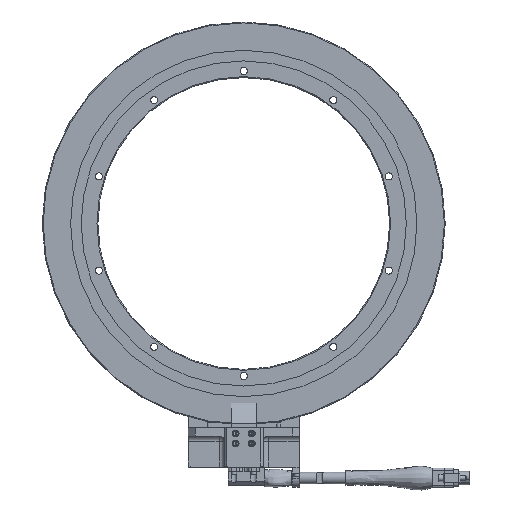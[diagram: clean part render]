
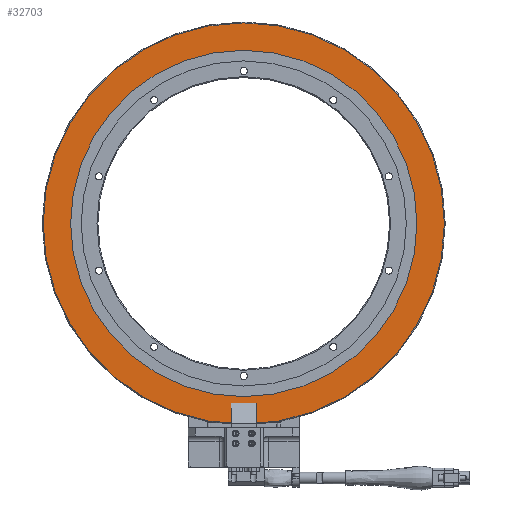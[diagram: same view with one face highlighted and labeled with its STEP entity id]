
A CAD part, front view. The second image highlights one B-rep face of the part: STEP entity #32703.
In plain terms, the highlighted planar face has unit normal (0, -1, 0).
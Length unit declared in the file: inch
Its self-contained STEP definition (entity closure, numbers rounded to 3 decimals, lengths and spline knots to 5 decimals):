
#3690 = VERTEX_POINT ( 'NONE', #35584 ) ;
#3760 = DIRECTION ( 'NONE',  ( 0., 0., 1. ) ) ;
#8404 = CIRCLE ( 'NONE', #79782, 3.61 ) ;
#22465 = AXIS2_PLACEMENT_3D ( 'NONE', #58817, #66284, #100812 ) ;
#25892 = EDGE_CURVE ( 'NONE', #3690, #3690, #8404, .T. ) ;
#32703 = ADVANCED_FACE ( 'NONE', ( #58296, #82758 ), #35899, .F. ) ;
#35584 = CARTESIAN_POINT ( 'NONE',  ( 3.61, 0., 0. ) ) ;
#35606 = EDGE_LOOP ( 'NONE', ( #40067 ) ) ;
#35657 = DIRECTION ( 'NONE',  ( 0., 1., 0. ) ) ;
#35899 = PLANE ( 'NONE',  #22465 ) ;
#35905 = EDGE_CURVE ( 'NONE', #47788, #47788, #46940, .T. ) ;
#38201 = CARTESIAN_POINT ( 'NONE',  ( 0., 0., 3.116 ) ) ;
#40067 = ORIENTED_EDGE ( 'NONE', *, *, #25892, .T. ) ;
#46940 = CIRCLE ( 'NONE', #57210, 3.116 ) ;
#47788 = VERTEX_POINT ( 'NONE', #38201 ) ;
#57210 = AXIS2_PLACEMENT_3D ( 'NONE', #101078, #35657, #3760 ) ;
#58296 = FACE_OUTER_BOUND ( 'NONE', #35606, .T. ) ;
#58817 = CARTESIAN_POINT ( 'NONE',  ( 0., 0., 0. ) ) ;
#61279 = DIRECTION ( 'NONE',  ( 1., 0., 0. ) ) ;
#66284 = DIRECTION ( 'NONE',  ( 0., 1., 0. ) ) ;
#68724 = CARTESIAN_POINT ( 'NONE',  ( 0., 0., 0. ) ) ;
#79782 = AXIS2_PLACEMENT_3D ( 'NONE', #68724, #93735, #61279 ) ;
#82758 = FACE_BOUND ( 'NONE', #96989, .T. ) ;
#93735 = DIRECTION ( 'NONE',  ( 0., -1., 0. ) ) ;
#96989 = EDGE_LOOP ( 'NONE', ( #97786 ) ) ;
#97786 = ORIENTED_EDGE ( 'NONE', *, *, #35905, .T. ) ;
#100812 = DIRECTION ( 'NONE',  ( 1., 0., 0. ) ) ;
#101078 = CARTESIAN_POINT ( 'NONE',  ( 0., 0., 0. ) ) ;
